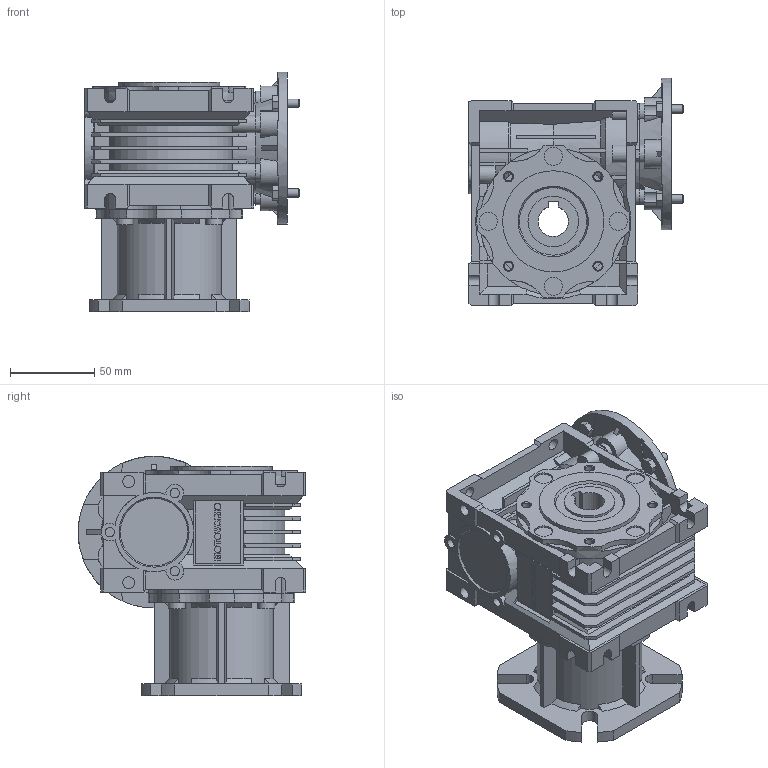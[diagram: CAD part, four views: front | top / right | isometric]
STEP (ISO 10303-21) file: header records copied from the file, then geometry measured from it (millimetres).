
FILE_DESCRIPTION(/* description */ ('STEP AP203'),/* implementation_level */ '2;1');
FILE_NAME(/* name */ 'NMRV0401271813300300NO---_---------------',/* time_stamp */ '2025-11-22T03:20:43+01:00',/* author */ ('License CC BY-ND 4.0'),/* organization */ ('CADENAS'),/* preprocessor_version */ 'ST-DEVELOPER v20',/* originating_system */ 'PARTsolutions',/* authorisation */ ' ');
FILE_SCHEMA (('CONFIG_CONTROL_DESIGN'));
Length unit declared in the file: millimetre
Products named in the file (6): NMRV0401271813300300NO---(---------------); Gear unit 40; 040-18 (78)alc-n; FU 40FB; VB 040-11 (11); 40-63 B14
Assembly tree (5 placements, depth 2):
  NMRV0401271813300300NO---(---------------)
    Gear unit 40
    040-18 (78)alc-n
    FU 40FB
    VB 040-11 (11)
    40-63 B14
Bounding box: 127 x 135 x 142 mm (x, y, z)
Volume: 752399.5 mm3; surface area: 203905.3 mm2
Topology: 5 solids, 5 shells, 991 faces, 2725 edges, 1785 vertices
Faces by surface type: plane 659, cylinder 243, cone 87, torus 2
Full cylindrical faces by diameter (mm): 4.917 x8, 5 x4, 5.55 x3, 6.05 x4, 7 x6, 10 x10, 10.8 x4, 16 x1, 23 x2, 28 x1, 30 x2, 35 x1, 36 x1, 40 x1, 47 x1, 56 x1, 59 x1, 60 x4, 75 x1, 90 x1
Entity records: 31273 total; most frequent: CARTESIAN_POINT 6161, ORIENTED_EDGE 5228, DIRECTION 5132, EDGE_CURVE 2614, AXIS2_PLACEMENT_3D 1769, VERTEX_POINT 1757, LINE 1594, VECTOR 1594
